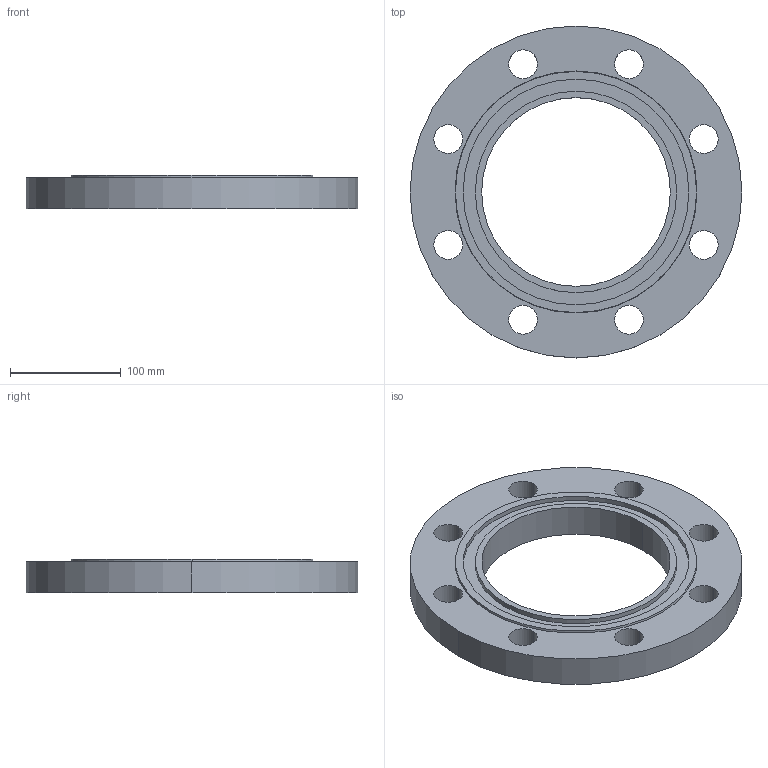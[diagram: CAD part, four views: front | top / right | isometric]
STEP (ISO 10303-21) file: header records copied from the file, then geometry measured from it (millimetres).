
FILE_DESCRIPTION (( 'STEP AP214' ), '1' );
FILE_NAME ('PN40 DN150 Type 01 - Type D Face.STEP', '2019-01-05T00:26:12', ( '' ), ( '' ), 'SwSTEP 2.0', 'SolidWorks 2019', '' );
FILE_SCHEMA (( 'AUTOMOTIVE_DESIGN' ));
Length unit declared in the file: millimetre
Products named in the file (1): PN40 DN150 Type 01 - Type D Face
Bounding box: 300 x 300 x 30 mm (x, y, z)
Volume: 1220202.7 mm3; surface area: 154576.8 mm2
Topology: 1 solids, 1 shells, 31 faces, 78 edges, 52 vertices
Faces by surface type: cylinder 24, plane 5, cone 2
Entity records: 1034 total; most frequent: DIRECTION 194, CARTESIAN_POINT 162, ORIENTED_EDGE 156, AXIS2_PLACEMENT_3D 84, EDGE_CURVE 78, CIRCLE 52, EDGE_LOOP 52, VERTEX_POINT 52
